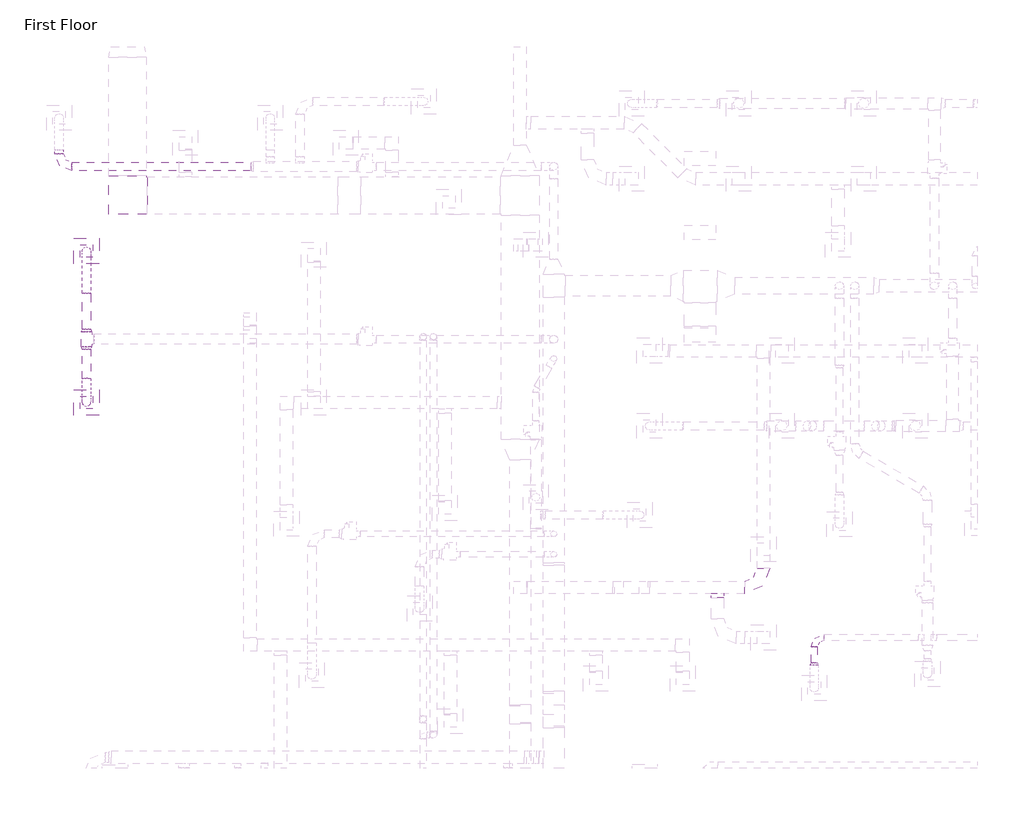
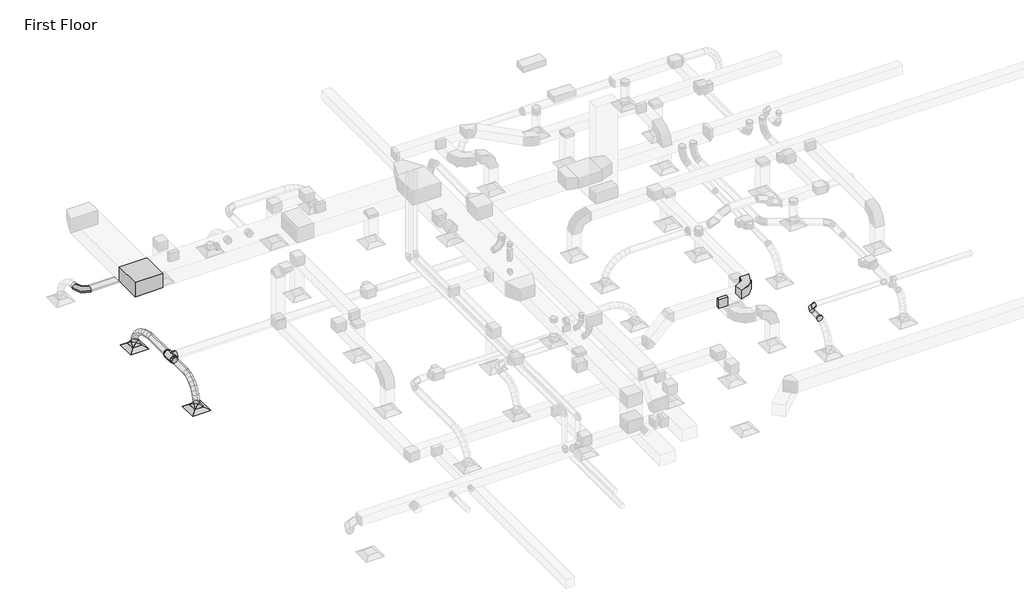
# One storey, part 9 of 61: 11 duct fittings, 7 duct segments, 2 air terminals.
"""IFC4 building model written with IfcOpenShell, lengths in millimetres."""

from ifc_helpers import new_model, si_unit, point, frame, frame_2d, origin, place, context, project, spatial, circle_curve, ellipse_curve, trimmed, segment, composite_curve, outline, extrude, transform, mapped, element, save
from ifc_brep_helpers import plane_surface, cylinder_surface, advanced_brep
from components import m_exhaust_grill_er_600_x_600_face_300_x_300_connection_ff221211, m_rectangular_elbow_mitered_standard_084eb264, m_rectangular_elbow_radius_1_5_w_86011e9f, m_rectangular_takeoff_standard_c00386d1, m_rectangular_to_round_transition_angle_45_degree_60daae35, m_round_elbow_1_5_d_2e586196, m_round_elbow_1_5_d_b7bc3624, m_round_tee_standard_11950e83, m_round_transition_angle_45_degree_3fc7b733, m_round_transition_angle_45_degree_7939cf24

model = new_model("IFC4")

# Units and contexts
model_context = context("Model", 3, world=origin())
ifc_project = project(units=[si_unit("LENGTHUNIT", "METRE", prefix="MILLI")], contexts=[model_context])

# Site, building, storey
site = spatial("IfcSite", under=ifc_project)
building = spatial("IfcBuilding", under=site)
storey = spatial("IfcBuildingStorey", under=building, Name="First Floor", Elevation=0.0)

# Air terminals
placement = place(None, origin())
m_exhaust_grill_er_600_x_600_face_300_x_300_connection_shape = m_exhaust_grill_er_600_x_600_face_300_x_300_connection_ff221211(model_context)
element("IfcAirTerminal", 1, ObjectType="M_Supply Diffuser : SD-600 x 600 Face 300 x 300 Connection", at=placement, inside=storey, context=model_context, shape_type="MappedRepresentation", body=[
    mapped(m_exhaust_grill_er_600_x_600_face_300_x_300_connection_shape, transform((-50186.4993979, 23910.5501837, 2680.0), x_axis=(1.0, 0.0, 0.0), y_axis=(0.0, 1.0, 0.0), z_axis=(0.0, 0.0, 1.0))),
])
element("IfcAirTerminal", 2, ObjectType="M_Supply Diffuser : SD-600 x 600 Face 300 x 300 Connection", at=placement, inside=storey, context=model_context, shape_type="MappedRepresentation", body=[
    mapped(m_exhaust_grill_er_600_x_600_face_300_x_300_connection_shape, transform((-50186.4993979, 20303.2476716, 2680.0), x_axis=(1.0, 0.0, 0.0), y_axis=(0.0, 1.0, 0.0), z_axis=(0.0, 0.0, 1.0))),
])

# Duct fittings
m_rectangular_elbow_mitered_standard_shape = m_rectangular_elbow_mitered_standard_084eb264(model_context)
element("IfcDuctFitting", 3, ObjectType="M_Rectangular Elbow - Mitered : Standard", at=placement, inside=storey, context=model_context, shape_type="MappedRepresentation", body=[
    mapped(m_rectangular_elbow_mitered_standard_shape, transform((-49210.6837723, 25228.8199771, 4000.010768), x_axis=(0.0, -1.0, 0.0), y_axis=(0.9999999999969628, 0.0, -2.4646645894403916e-06), z_axis=(2.4646645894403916e-06, 0.0, 0.9999999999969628))),
])
m_rectangular_elbow_radius_1_5_w_shape = m_rectangular_elbow_radius_1_5_w_86011e9f(model_context)
element("IfcDuctFitting", 4, ObjectType="M_Rectangular Elbow - Radius : 1.5 W", at=placement, inside=storey, context=model_context, shape_type="MappedRepresentation", body=[
    mapped(m_rectangular_elbow_radius_1_5_w_shape, transform((-34075.733002, 15905.4855953, 4000.0), x_axis=(1.0, 0.0, 0.0), y_axis=(0.0, 1.0, 0.0), z_axis=(0.0, 0.0, 1.0))),
])
m_rectangular_takeoff_standard_shape = m_rectangular_takeoff_standard_c00386d1(model_context)
element("IfcDuctFitting", 5, ObjectType="M_Rectangular Takeoff : Standard", at=placement, inside=storey, context=model_context, shape_type="MappedRepresentation", body=[
    mapped(m_rectangular_takeoff_standard_shape, transform((-35175.733002, 15755.4855953, 4000.0), x_axis=(0.0, -1.0, 0.0), y_axis=(-1.0, 0.0, 0.0), z_axis=(0.0, 0.0, -1.0))),
])
m_rectangular_to_round_transition_angle_45_degree_shape = m_rectangular_to_round_transition_angle_45_degree_60daae35(model_context)
element("IfcDuctFitting", 6, ObjectType="M_Rectangular to Round Transition - Angle : 45 Degree", at=placement, inside=storey, context=model_context, shape_type="MappedRepresentation", body=[
    mapped(m_rectangular_to_round_transition_angle_45_degree_shape, transform((-50186.4993979, 23910.5501837, 2781.6), x_axis=(0.0, 0.0, 1.0), y_axis=(1.0, 0.0, 0.0), z_axis=(0.0, 1.0, 0.0))),
])
element("IfcDuctFitting", 7, ObjectType="M_Rectangular to Round Transition - Angle : 45 Degree", at=placement, inside=storey, context=model_context, shape_type="MappedRepresentation", body=[
    mapped(m_rectangular_to_round_transition_angle_45_degree_shape, transform((-50186.4993979, 20303.2476716, 2781.6), x_axis=(0.0, 0.0, 1.0), y_axis=(1.0, 0.0, 0.0), z_axis=(0.0, 1.0, 0.0))),
])
m_round_elbow_1_5_d_shape = m_round_elbow_1_5_d_2e586196(model_context)
element("IfcDuctFitting", 8, ObjectType="M_Round Elbow : 1.5 D", at=placement, inside=storey, context=model_context, shape_type="MappedRepresentation", body=[
    mapped(m_round_elbow_1_5_d_shape, transform((-32868.9643314, 14711.7643739, 3619.1), x_axis=(-1.0, 0.0, 0.0), y_axis=(0.0, -1.0, 0.0), z_axis=(0.0, 0.0, 1.0))),
])
m_round_elbow_1_5_d_2_shape = m_round_elbow_1_5_d_b7bc3624(model_context)
element("IfcDuctFitting", 9, ObjectType="M_Round Elbow : 1.5 D", at=placement, inside=storey, context=model_context, shape_type="MappedRepresentation", body=[
    mapped(m_round_elbow_1_5_d_2_shape, transform((-50836.7847648, 25922.5121835, 3644.1), x_axis=(0.0, -1.0, 0.0), y_axis=(1.0, 0.0, 0.0), z_axis=(0.0, 0.0, 1.0))),
])
m_round_tee_standard_shape = m_round_tee_standard_11950e83(model_context)
element("IfcDuctFitting", 10, ObjectType="M_Round Tee : Standard", at=placement, inside=storey, context=model_context, shape_type="MappedRepresentation", body=[
    mapped(m_round_tee_standard_shape, transform((-50186.4993979, 21808.4183799, 3619.075), x_axis=(0.0, 1.0, 0.0), y_axis=(-1.0, 0.0, 0.0), z_axis=(0.0, 0.0, 1.0))),
])
m_round_transition_angle_45_degree_shape = m_round_transition_angle_45_degree_3fc7b733(model_context)
element("IfcDuctFitting", 11, ObjectType="M_Round Transition - Angle : 45 Degree", at=placement, inside=storey, context=model_context, shape_type="MappedRepresentation", body=[
    mapped(m_round_transition_angle_45_degree_shape, transform((-32868.9643314, 14111.7643739, 3619.1), x_axis=(0.0, -1.0, 0.0), y_axis=(1.0, 0.0, 0.0), z_axis=(0.0, 0.0, 1.0))),
])
m_round_transition_angle_45_degree_2_shape = m_round_transition_angle_45_degree_7939cf24(model_context)
element("IfcDuctFitting", 12, ObjectType="M_Round Transition - Angle : 45 Degree", at=placement, inside=storey, context=model_context, shape_type="MappedRepresentation", body=[
    mapped(m_round_transition_angle_45_degree_2_shape, transform((-50186.4993979, 21983.4183799, 3619.075), x_axis=(0.0, 1.0, 0.0), y_axis=(-1.0, 0.0, 0.0), z_axis=(0.0, 0.0, 1.0))),
])
element("IfcDuctFitting", 13, ObjectType="M_Round Transition - Angle : 45 Degree", at=placement, inside=storey, context=model_context, shape_type="MappedRepresentation", body=[
    mapped(m_round_transition_angle_45_degree_2_shape, transform((-50186.4993979, 21633.4183799, 3619.075), x_axis=(0.0, -1.0, 0.0), y_axis=(1.0, 0.0, 0.0), z_axis=(0.0, 0.0, 1.0))),
])

# Duct segments
element("IfcDuctSegment", 14, ObjectType="Flex - Round", at=placement, inside=storey, context=model_context, shape_type="AdvancedBrep", body=[
    advanced_brep(
    [(-50286.4993979, 22908.4183799, 3619.075), (-50186.4993979, 22900.6822687, 3519.3746861), (-50086.4993979, 22908.4183799, 3619.075), (-50186.4993979, 22916.1544911, 3718.7753139), (-50286.4993979, 23050.9511183, 3608.0153647), (-50186.4993979, 23036.5347607, 3508.8333955), (-50086.4993979, 23050.9511183, 3608.0153647), (-50186.4993979, 23065.3674759, 3707.1973338), (-50286.4993979, 23910.5501837, 2902.3106781), (-50186.4993979, 24009.3395231, 2917.824105), (-50086.4993979, 23910.5501837, 2902.3106781), (-50186.4993979, 23811.7608442, 2886.7972513), (-50286.4993979, 23200.516996, 3575.9418052), (-50186.4993979, 23173.7462245, 3479.4091705), (-50086.4993979, 23200.516996, 3575.9418052), (-50186.4993979, 23227.2877675, 3672.47444), (-50286.4993979, 23350.7605863, 3524.5123415), (-50186.4993979, 23312.8703193, 3431.7859902), (-50086.4993979, 23350.7605863, 3524.5123415), (-50186.4993979, 23388.6508534, 3617.2386927), (-50286.4993979, 23495.3264622, 3455.3849932), (-50186.4993979, 23446.5356082, 3367.870997), (-50086.4993979, 23495.3264622, 3455.3849932), (-50186.4993979, 23544.1173163, 3542.8989895), (-50286.4993979, 23627.8591968, 3370.2177803), (-50186.4993979, 23567.6440718, 3290.0451652), (-50086.4993979, 23627.8591968, 3370.2177803), (-50186.4993979, 23688.0743218, 3450.3903954), (-50286.4993979, 23742.0033632, 3270.6687225), (-50186.4993979, 23669.4313511, 3201.2729741), (-50086.4993979, 23742.0033632, 3270.6687225), (-50186.4993979, 23814.5753752, 3340.064471), (-50286.4993979, 23831.4035344, 3158.3958397), (-50186.4993979, 23745.9508652, 3105.1762181), (-50086.4993979, 23831.4035344, 3158.3958397), (-50186.4993979, 23916.8562036, 3211.6154613), (-50286.4993979, 23889.7042835, 3035.0571516), (-50186.4993979, 23793.1470039, 3005.3299911), (-50086.4993979, 23889.7042835, 3035.0571516), (-50186.4993979, 23986.2615631, 3064.7843121)],
    [
        (0, 1, circle_curve(frame((-50186.4993979, 22908.4183799, 3619.075), z_axis=(0.0, -0.9970031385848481, 0.07736111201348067), x_axis=(-1.0, 0.0, 0.0)), 100.0)),
        (1, 2, circle_curve(frame((-50186.4993979, 22908.4183799, 3619.075), z_axis=(0.0, -0.9970031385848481, 0.07736111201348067), x_axis=(-1.0, 0.0, 0.0)), 100.0)),
        (2, 3, circle_curve(frame((-50186.4993979, 22908.4183799, 3619.075), z_axis=(0.0, -0.9970031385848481, 0.07736111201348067), x_axis=(-1.0, 0.0, 0.0)), 100.0)),
        (3, 0, circle_curve(frame((-50186.4993979, 22908.4183799, 3619.075), z_axis=(0.0, -0.9970031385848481, 0.07736111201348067), x_axis=(-1.0, 0.0, 0.0)), 100.0)),
        (0, 4),
        (4, 5, ellipse_curve(frame((-50186.4993979, 23050.9511183, 3608.0153647), z_axis=(0.0, -0.9896008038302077, 0.14384105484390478), x_axis=(0.0, -0.1438410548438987, -0.9896008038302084)), 100.2242205, 100.0)),
        (5, 1),
        (5, 6, ellipse_curve(frame((-50186.4993979, 23050.9511183, 3608.0153647), z_axis=(0.0, -0.9896008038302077, 0.14384105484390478), x_axis=(0.0, -0.1438410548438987, -0.9896008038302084)), 100.2242205, 100.0)),
        (6, 2),
        (6, 7, ellipse_curve(frame((-50186.4993979, 23050.9511183, 3608.0153647), z_axis=(0.0, -0.9896008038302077, 0.14384105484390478), x_axis=(0.0, -0.1438410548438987, -0.9896008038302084)), 100.2242205, 100.0)),
        (7, 3),
        (7, 4, ellipse_curve(frame((-50186.4993979, 23050.9511183, 3608.0153647), z_axis=(0.0, -0.9896008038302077, 0.14384105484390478), x_axis=(0.0, -0.1438410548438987, -0.9896008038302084)), 100.2242205, 100.0)),
        (8, 9, circle_curve(frame((-50186.4993979, 23910.5501837, 2902.3106781), z_axis=(0.0, 0.1551342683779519, -0.9878933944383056), x_axis=(-1.0, 0.0, 0.0)), 100.0)),
        (9, 10, circle_curve(frame((-50186.4993979, 23910.5501837, 2902.3106781), z_axis=(0.0, 0.1551342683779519, -0.9878933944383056), x_axis=(-1.0, 0.0, 0.0)), 100.0)),
        (10, 11, circle_curve(frame((-50186.4993979, 23910.5501837, 2902.3106781), z_axis=(0.0, 0.1551342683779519, -0.9878933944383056), x_axis=(-1.0, 0.0, 0.0)), 100.0)),
        (11, 8, circle_curve(frame((-50186.4993979, 23910.5501837, 2902.3106781), z_axis=(0.0, 0.1551342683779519, -0.9878933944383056), x_axis=(-1.0, 0.0, 0.0)), 100.0)),
        (4, 12),
        (12, 13, ellipse_curve(frame((-50186.4993979, 23200.516996, 3575.9418052), z_axis=(0.0, -0.9636307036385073, 0.26723747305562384), x_axis=(0.0, -0.26723747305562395, -0.9636307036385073)), 100.1759641, 100.0)),
        (13, 5),
        (13, 14, ellipse_curve(frame((-50186.4993979, 23200.516996, 3575.9418052), z_axis=(0.0, -0.9636307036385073, 0.26723747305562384), x_axis=(0.0, -0.26723747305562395, -0.9636307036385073)), 100.1759641, 100.0)),
        (14, 6),
        (14, 15, ellipse_curve(frame((-50186.4993979, 23200.516996, 3575.9418052), z_axis=(0.0, -0.9636307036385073, 0.26723747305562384), x_axis=(0.0, -0.26723747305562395, -0.9636307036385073)), 100.1759641, 100.0)),
        (15, 7),
        (15, 12, ellipse_curve(frame((-50186.4993979, 23200.516996, 3575.9418052), z_axis=(0.0, -0.9636307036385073, 0.26723747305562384), x_axis=(0.0, -0.26723747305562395, -0.9636307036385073)), 100.1759641, 100.0)),
        (12, 16),
        (16, 17, ellipse_curve(frame((-50186.4993979, 23350.7605863, 3524.5123415), z_axis=(0.0, -0.9256981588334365, 0.3782630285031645), x_axis=(0.0, -0.37826302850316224, -0.9256981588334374)), 100.1690998, 100.0)),
        (17, 13),
        (17, 18, ellipse_curve(frame((-50186.4993979, 23350.7605863, 3524.5123415), z_axis=(0.0, -0.9256981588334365, 0.3782630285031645), x_axis=(0.0, -0.37826302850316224, -0.9256981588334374)), 100.1690998, 100.0)),
        (18, 14),
        (18, 19, ellipse_curve(frame((-50186.4993979, 23350.7605863, 3524.5123415), z_axis=(0.0, -0.9256981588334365, 0.3782630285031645), x_axis=(0.0, -0.37826302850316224, -0.9256981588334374)), 100.1690998, 100.0)),
        (19, 15),
        (19, 16, ellipse_curve(frame((-50186.4993979, 23350.7605863, 3524.5123415), z_axis=(0.0, -0.9256981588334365, 0.3782630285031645), x_axis=(0.0, -0.37826302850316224, -0.9256981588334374)), 100.1690998, 100.0)),
        (16, 20),
        (20, 21, ellipse_curve(frame((-50186.4993979, 23495.3264622, 3455.3849932), z_axis=(0.0, -0.8734276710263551, 0.4869539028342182), x_axis=(0.0, -0.48695390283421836, -0.8734276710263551)), 100.1960427, 100.0)),
        (21, 17),
        (21, 22, ellipse_curve(frame((-50186.4993979, 23495.3264622, 3455.3849932), z_axis=(0.0, -0.8734276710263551, 0.4869539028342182), x_axis=(0.0, -0.48695390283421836, -0.8734276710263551)), 100.1960427, 100.0)),
        (22, 18),
        (22, 23, ellipse_curve(frame((-50186.4993979, 23495.3264622, 3455.3849932), z_axis=(0.0, -0.8734276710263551, 0.4869539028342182), x_axis=(0.0, -0.48695390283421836, -0.8734276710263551)), 100.1960427, 100.0)),
        (23, 19),
        (23, 20, ellipse_curve(frame((-50186.4993979, 23495.3264622, 3455.3849932), z_axis=(0.0, -0.8734276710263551, 0.4869539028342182), x_axis=(0.0, -0.48695390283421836, -0.8734276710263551)), 100.1960427, 100.0)),
        (20, 24),
        (24, 25, ellipse_curve(frame((-50186.4993979, 23627.8591968, 3370.2177803), z_axis=(0.0, -0.7995897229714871, 0.600546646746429), x_axis=(0.0, -0.6005466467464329, -0.7995897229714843)), 100.2671905, 100.0)),
        (25, 21),
        (25, 26, ellipse_curve(frame((-50186.4993979, 23627.8591968, 3370.2177803), z_axis=(0.0, -0.7995897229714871, 0.600546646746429), x_axis=(0.0, -0.6005466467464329, -0.7995897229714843)), 100.2671905, 100.0)),
        (26, 22),
        (26, 27, ellipse_curve(frame((-50186.4993979, 23627.8591968, 3370.2177803), z_axis=(0.0, -0.7995897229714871, 0.600546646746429), x_axis=(0.0, -0.6005466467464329, -0.7995897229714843)), 100.2671905, 100.0)),
        (27, 23),
        (27, 24, ellipse_curve(frame((-50186.4993979, 23627.8591968, 3370.2177803), z_axis=(0.0, -0.7995897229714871, 0.600546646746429), x_axis=(0.0, -0.6005466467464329, -0.7995897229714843)), 100.2671905, 100.0)),
        (24, 28),
        (28, 29, ellipse_curve(frame((-50186.4993979, 23742.0033632, 3270.6687225), z_axis=(0.0, -0.6911136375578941, 0.722746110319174), x_axis=(0.0, -0.722746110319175, -0.6911136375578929)), 100.4114876, 100.0)),
        (29, 25),
        (29, 30, ellipse_curve(frame((-50186.4993979, 23742.0033632, 3270.6687225), z_axis=(0.0, -0.6911136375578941, 0.722746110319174), x_axis=(0.0, -0.722746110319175, -0.6911136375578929)), 100.4114876, 100.0)),
        (30, 26),
        (30, 31, ellipse_curve(frame((-50186.4993979, 23742.0033632, 3270.6687225), z_axis=(0.0, -0.6911136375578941, 0.722746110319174), x_axis=(0.0, -0.722746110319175, -0.6911136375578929)), 100.4114876, 100.0)),
        (31, 27),
        (31, 28, ellipse_curve(frame((-50186.4993979, 23742.0033632, 3270.6687225), z_axis=(0.0, -0.6911136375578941, 0.722746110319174), x_axis=(0.0, -0.722746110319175, -0.6911136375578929)), 100.4114876, 100.0)),
        (28, 32),
        (32, 33, ellipse_curve(frame((-50186.4993979, 23831.4035344, 3158.3958397), z_axis=(0.0, -0.5286532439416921, 0.8488378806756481), x_axis=(0.0, -0.8488378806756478, -0.5286532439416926)), 100.6701882, 100.0)),
        (33, 29),
        (33, 34, ellipse_curve(frame((-50186.4993979, 23831.4035344, 3158.3958397), z_axis=(0.0, -0.5286532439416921, 0.8488378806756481), x_axis=(0.0, -0.8488378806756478, -0.5286532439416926)), 100.6701882, 100.0)),
        (34, 30),
        (34, 35, ellipse_curve(frame((-50186.4993979, 23831.4035344, 3158.3958397), z_axis=(0.0, -0.5286532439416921, 0.8488378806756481), x_axis=(0.0, -0.8488378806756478, -0.5286532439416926)), 100.6701882, 100.0)),
        (35, 31),
        (35, 32, ellipse_curve(frame((-50186.4993979, 23831.4035344, 3158.3958397), z_axis=(0.0, -0.5286532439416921, 0.8488378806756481), x_axis=(0.0, -0.8488378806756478, -0.5286532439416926)), 100.6701882, 100.0)),
        (32, 36),
        (36, 37, ellipse_curve(frame((-50186.4993979, 23889.7042835, 3035.0571516), z_axis=(0.0, -0.2942416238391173, 0.9557310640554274), x_axis=(0.0, -0.9557310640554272, -0.2942416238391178)), 101.0297596, 100.0)),
        (37, 33),
        (37, 38, ellipse_curve(frame((-50186.4993979, 23889.7042835, 3035.0571516), z_axis=(0.0, -0.2942416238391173, 0.9557310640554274), x_axis=(0.0, -0.9557310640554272, -0.2942416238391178)), 101.0297596, 100.0)),
        (38, 34),
        (38, 39, ellipse_curve(frame((-50186.4993979, 23889.7042835, 3035.0571516), z_axis=(0.0, -0.2942416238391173, 0.9557310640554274), x_axis=(0.0, -0.9557310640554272, -0.2942416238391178)), 101.0297596, 100.0)),
        (39, 35),
        (39, 36, ellipse_curve(frame((-50186.4993979, 23889.7042835, 3035.0571516), z_axis=(0.0, -0.2942416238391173, 0.9557310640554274), x_axis=(0.0, -0.9557310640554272, -0.2942416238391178)), 101.0297596, 100.0)),
        (36, 8),
        (11, 37),
        (10, 38),
        (9, 39),
    ],
    [
        plane_surface(frame((-50186.4993979, 22916.1544911, 3718.7753139), z_axis=(0.0, -0.9970031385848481, 0.07736111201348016), x_axis=(1.0, 0.0, 0.0))),
        cylinder_surface(frame((-50186.4993979, 22908.4183799, 3619.075), z_axis=(0.0, -0.9970031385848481, 0.07736111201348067), x_axis=(-1.0, 0.0, 0.0)), 100.0),
        plane_surface(frame((-50186.4993979, 24009.3395231, 2917.824105), z_axis=(0.0, 0.15513426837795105, -0.9878933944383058), x_axis=(1.0, 0.0, 0.0))),
        cylinder_surface(frame((-50186.4993979, 23050.9511183, 3608.0153647), z_axis=(0.0, -0.9777706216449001, 0.20967739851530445), x_axis=(-1.0, 0.0, 0.0)), 100.0),
        cylinder_surface(frame((-50186.4993979, 23200.516996, 3575.9418052), z_axis=(0.0, -0.9461054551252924, 0.32385871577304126), x_axis=(-1.0, 0.0, 0.0)), 100.0),
        cylinder_surface(frame((-50186.4993979, 23350.7605863, 3524.5123415), z_axis=(0.0, -0.9021654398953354, 0.4313902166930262), x_axis=(-1.0, 0.0, 0.0)), 100.0),
        cylinder_surface(frame((-50186.4993979, 23495.3264622, 3455.3849932), z_axis=(0.0, -0.8412720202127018, 0.5406120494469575), x_axis=(-1.0, 0.0, 0.0)), 100.0),
        cylinder_surface(frame((-50186.4993979, 23627.8591968, 3370.2177803), z_axis=(0.0, -0.7536459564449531, 0.6572805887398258), x_axis=(-1.0, 0.0, 0.0)), 100.0),
        cylinder_surface(frame((-50186.4993979, 23742.0033632, 3270.6687225), z_axis=(0.0, -0.6229169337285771, 0.7822879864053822), x_axis=(-1.0, 0.0, 0.0)), 100.0),
        cylinder_surface(frame((-50186.4993979, 23831.4035344, 3158.3958397), z_axis=(0.0, -0.4273507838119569, 0.9040858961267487), x_axis=(-1.0, 0.0, 0.0)), 100.0),
        cylinder_surface(frame((-50186.4993979, 23889.7042835, 3035.0571516), z_axis=(0.0, -0.1551342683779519, 0.9878933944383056), x_axis=(-1.0, 0.0, 0.0)), 100.0),
    ],
    [
        (0, [[1, 2, 3, 4]]),
        (1, [[-1, 5, 6, 7]]),
        (1, [[-2, -7, 8, 9]]),
        (1, [[-3, -9, 10, 11]]),
        (1, [[-4, -11, 12, -5]]),
        (2, [[13, 14, 15, 16]]),
        (3, [[-6, 17, 18, 19]]),
        (3, [[-8, -19, 20, 21]]),
        (3, [[-10, -21, 22, 23]]),
        (3, [[-12, -23, 24, -17]]),
        (4, [[-18, 25, 26, 27]]),
        (4, [[-20, -27, 28, 29]]),
        (4, [[-22, -29, 30, 31]]),
        (4, [[-24, -31, 32, -25]]),
        (5, [[-26, 33, 34, 35]]),
        (5, [[-28, -35, 36, 37]]),
        (5, [[-30, -37, 38, 39]]),
        (5, [[-32, -39, 40, -33]]),
        (6, [[-34, 41, 42, 43]]),
        (6, [[-36, -43, 44, 45]]),
        (6, [[-38, -45, 46, 47]]),
        (6, [[-40, -47, 48, -41]]),
        (7, [[-42, 49, 50, 51]]),
        (7, [[-44, -51, 52, 53]]),
        (7, [[-46, -53, 54, 55]]),
        (7, [[-48, -55, 56, -49]]),
        (8, [[-50, 57, 58, 59]]),
        (8, [[-52, -59, 60, 61]]),
        (8, [[-54, -61, 62, 63]]),
        (8, [[-56, -63, 64, -57]]),
        (9, [[-58, 65, 66, 67]]),
        (9, [[-60, -67, 68, 69]]),
        (9, [[-62, -69, 70, 71]]),
        (9, [[-64, -71, 72, -65]]),
        (10, [[-66, 73, -16, 74]]),
        (10, [[-68, -74, -15, 75]]),
        (10, [[-70, -75, -14, 76]]),
        (10, [[-72, -76, -13, -73]]),
    ],
),
])
element("IfcDuctSegment", 15, ObjectType="Flex - Round", at=placement, inside=storey, context=model_context, shape_type="AdvancedBrep", body=[
    advanced_brep(
    [(-50086.4993979, 20873.4183799, 3619.075), (-50186.4993979, 20889.5023993, 3520.3769538), (-50286.4993979, 20873.4183799, 3619.075), (-50186.4993979, 20857.3343606, 3717.7730462), (-50086.4993979, 20761.26578, 3600.7984012), (-50186.4993979, 20791.5726395, 3504.4181358), (-50286.4993979, 20761.26578, 3600.7984012), (-50186.4993979, 20730.9589205, 3697.1786666), (-50086.4993979, 20303.2476716, 2902.3106781), (-50186.4993979, 20203.7550327, 2912.3712346), (-50286.4993979, 20303.2476716, 2902.3106781), (-50186.4993979, 20402.7403106, 2892.2501217), (-50086.4993979, 20655.5328482, 3550.0126942), (-50186.4993979, 20709.0689067, 3464.789892), (-50286.4993979, 20655.5328482, 3550.0126942), (-50186.4993979, 20601.9967897, 3635.2354964), (-50086.4993979, 20558.8499308, 3472.7840129), (-50186.4993979, 20628.3245687, 3400.2926787), (-50286.4993979, 20558.8499308, 3472.7840129), (-50186.4993979, 20489.3752929, 3545.2753471), (-50086.4993979, 20473.8473737, 3375.1784911), (-50186.4993979, 20554.2968679, 3315.2892081), (-50286.4993979, 20473.8473737, 3375.1784911), (-50186.4993979, 20393.3978796, 3435.0677742), (-50086.4993979, 20403.1555232, 3263.2622628), (-50186.4993979, 20491.5196264, 3215.9030406), (-50286.4993979, 20403.1555232, 3263.2622628), (-50186.4993979, 20314.79142, 3310.6214851), (-50086.4993979, 20349.4047253, 3143.101462), (-50186.4993979, 20443.7191636, 3109.0443128), (-50286.4993979, 20349.4047253, 3143.101462), (-50186.4993979, 20255.090287, 3177.1586112), (-50086.4993979, 20315.2253261, 3020.7622224), (-50186.4993979, 20413.8523427, 3002.1412004), (-50286.4993979, 20315.2253261, 3020.7622224), (-50186.4993979, 20216.5983094, 3039.3832445)],
    [
        (0, 1, circle_curve(frame((-50186.4993979, 20873.4183799, 3619.075), z_axis=(0.0, 0.9869804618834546, 0.16084019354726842), x_axis=(1.0, 0.0, 0.0)), 100.0)),
        (1, 2, circle_curve(frame((-50186.4993979, 20873.4183799, 3619.075), z_axis=(0.0, 0.9869804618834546, 0.16084019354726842), x_axis=(1.0, 0.0, 0.0)), 100.0)),
        (2, 3, circle_curve(frame((-50186.4993979, 20873.4183799, 3619.075), z_axis=(0.0, 0.9869804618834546, 0.16084019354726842), x_axis=(1.0, 0.0, 0.0)), 100.0)),
        (3, 0, circle_curve(frame((-50186.4993979, 20873.4183799, 3619.075), z_axis=(0.0, 0.9869804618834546, 0.16084019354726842), x_axis=(1.0, 0.0, 0.0)), 100.0)),
        (0, 4),
        (4, 5, ellipse_curve(frame((-50186.4993979, 20761.26578, 3600.7984012), z_axis=(0.0, 0.9539486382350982, 0.29996999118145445), x_axis=(0.0, 0.2999699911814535, -0.9539486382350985)), 101.0329713, 100.0)),
        (5, 1),
        (5, 6, ellipse_curve(frame((-50186.4993979, 20761.26578, 3600.7984012), z_axis=(0.0, 0.9539486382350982, 0.29996999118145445), x_axis=(0.0, 0.2999699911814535, -0.9539486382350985)), 101.0329713, 100.0)),
        (6, 2),
        (6, 7, ellipse_curve(frame((-50186.4993979, 20761.26578, 3600.7984012), z_axis=(0.0, 0.9539486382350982, 0.29996999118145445), x_axis=(0.0, 0.2999699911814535, -0.9539486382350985)), 101.0329713, 100.0)),
        (7, 3),
        (7, 4, ellipse_curve(frame((-50186.4993979, 20761.26578, 3600.7984012), z_axis=(0.0, 0.9539486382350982, 0.29996999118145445), x_axis=(0.0, 0.2999699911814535, -0.9539486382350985)), 101.0329713, 100.0)),
        (8, 9, circle_curve(frame((-50186.4993979, 20303.2476716, 2902.3106781), z_axis=(0.0, -0.10060556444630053, -0.9949263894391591), x_axis=(1.0, 0.0, 0.0)), 100.0)),
        (9, 10, circle_curve(frame((-50186.4993979, 20303.2476716, 2902.3106781), z_axis=(0.0, -0.10060556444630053, -0.9949263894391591), x_axis=(1.0, 0.0, 0.0)), 100.0)),
        (10, 11, circle_curve(frame((-50186.4993979, 20303.2476716, 2902.3106781), z_axis=(0.0, -0.10060556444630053, -0.9949263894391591), x_axis=(1.0, 0.0, 0.0)), 100.0)),
        (11, 8, circle_curve(frame((-50186.4993979, 20303.2476716, 2902.3106781), z_axis=(0.0, -0.10060556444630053, -0.9949263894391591), x_axis=(1.0, 0.0, 0.0)), 100.0)),
        (4, 12),
        (12, 13, ellipse_curve(frame((-50186.4993979, 20655.5328482, 3550.0126942), z_axis=(0.0, 0.8467822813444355, 0.5319396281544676), x_axis=(0.0, 0.5319396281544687, -0.8467822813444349)), 100.6431099, 100.0)),
        (13, 5),
        (13, 14, ellipse_curve(frame((-50186.4993979, 20655.5328482, 3550.0126942), z_axis=(0.0, 0.8467822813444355, 0.5319396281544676), x_axis=(0.0, 0.5319396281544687, -0.8467822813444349)), 100.6431099, 100.0)),
        (14, 6),
        (14, 15, ellipse_curve(frame((-50186.4993979, 20655.5328482, 3550.0126942), z_axis=(0.0, 0.8467822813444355, 0.5319396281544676), x_axis=(0.0, 0.5319396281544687, -0.8467822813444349)), 100.6431099, 100.0)),
        (15, 7),
        (15, 12, ellipse_curve(frame((-50186.4993979, 20655.5328482, 3550.0126942), z_axis=(0.0, 0.8467822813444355, 0.5319396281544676), x_axis=(0.0, 0.5319396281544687, -0.8467822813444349)), 100.6431099, 100.0)),
        (12, 16),
        (16, 17, ellipse_curve(frame((-50186.4993979, 20558.8499308, 3472.7840129), z_axis=(0.0, 0.7219694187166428, 0.6919249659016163), x_axis=(0.0, 0.6919249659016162, -0.7219694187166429)), 100.4077629, 100.0)),
        (17, 13),
        (17, 18, ellipse_curve(frame((-50186.4993979, 20558.8499308, 3472.7840129), z_axis=(0.0, 0.7219694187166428, 0.6919249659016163), x_axis=(0.0, 0.6919249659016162, -0.7219694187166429)), 100.4077629, 100.0)),
        (18, 14),
        (18, 19, ellipse_curve(frame((-50186.4993979, 20558.8499308, 3472.7840129), z_axis=(0.0, 0.7219694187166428, 0.6919249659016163), x_axis=(0.0, 0.6919249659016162, -0.7219694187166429)), 100.4077629, 100.0)),
        (19, 15),
        (19, 16, ellipse_curve(frame((-50186.4993979, 20558.8499308, 3472.7840129), z_axis=(0.0, 0.7219694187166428, 0.6919249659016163), x_axis=(0.0, 0.6919249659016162, -0.7219694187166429)), 100.4077629, 100.0)),
        (16, 20),
        (20, 21, ellipse_curve(frame((-50186.4993979, 20473.8473737, 3375.1784911), z_axis=(0.0, 0.5971384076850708, 0.8021382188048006), x_axis=(0.0, 0.8021382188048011, -0.5971384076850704)), 100.2938051, 100.0)),
        (21, 17),
        (21, 22, ellipse_curve(frame((-50186.4993979, 20473.8473737, 3375.1784911), z_axis=(0.0, 0.5971384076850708, 0.8021382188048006), x_axis=(0.0, 0.8021382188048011, -0.5971384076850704)), 100.2938051, 100.0)),
        (22, 18),
        (22, 23, ellipse_curve(frame((-50186.4993979, 20473.8473737, 3375.1784911), z_axis=(0.0, 0.5971384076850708, 0.8021382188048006), x_axis=(0.0, 0.8021382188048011, -0.5971384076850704)), 100.2938051, 100.0)),
        (23, 19),
        (23, 20, ellipse_curve(frame((-50186.4993979, 20473.8473737, 3375.1784911), z_axis=(0.0, 0.5971384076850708, 0.8021382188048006), x_axis=(0.0, 0.8021382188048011, -0.5971384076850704)), 100.2938051, 100.0)),
        (20, 24),
        (24, 25, ellipse_curve(frame((-50186.4993979, 20403.1555232, 3263.2622628), z_axis=(0.0, 0.4723865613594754, 0.8813914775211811), x_axis=(0.0, 0.8813914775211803, -0.47238656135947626)), 100.2552276, 100.0)),
        (25, 21),
        (25, 26, ellipse_curve(frame((-50186.4993979, 20403.1555232, 3263.2622628), z_axis=(0.0, 0.4723865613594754, 0.8813914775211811), x_axis=(0.0, 0.8813914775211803, -0.47238656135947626)), 100.2552276, 100.0)),
        (26, 22),
        (26, 27, ellipse_curve(frame((-50186.4993979, 20403.1555232, 3263.2622628), z_axis=(0.0, 0.4723865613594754, 0.8813914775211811), x_axis=(0.0, 0.8813914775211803, -0.47238656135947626)), 100.2552276, 100.0)),
        (27, 23),
        (27, 24, ellipse_curve(frame((-50186.4993979, 20403.1555232, 3263.2622628), z_axis=(0.0, 0.4723865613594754, 0.8813914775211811), x_axis=(0.0, 0.8813914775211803, -0.47238656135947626)), 100.2552276, 100.0)),
        (24, 28),
        (28, 29, ellipse_curve(frame((-50186.4993979, 20349.4047253, 3143.101462), z_axis=(0.0, 0.339637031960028, 0.9405565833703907), x_axis=(0.0, 0.9405565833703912, -0.3396370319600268)), 100.2751349, 100.0)),
        (29, 25),
        (29, 30, ellipse_curve(frame((-50186.4993979, 20349.4047253, 3143.101462), z_axis=(0.0, 0.339637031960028, 0.9405565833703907), x_axis=(0.0, 0.9405565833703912, -0.3396370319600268)), 100.2751349, 100.0)),
        (30, 26),
        (30, 31, ellipse_curve(frame((-50186.4993979, 20349.4047253, 3143.101462), z_axis=(0.0, 0.339637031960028, 0.9405565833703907), x_axis=(0.0, 0.9405565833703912, -0.3396370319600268)), 100.2751349, 100.0)),
        (31, 27),
        (31, 28, ellipse_curve(frame((-50186.4993979, 20349.4047253, 3143.101462), z_axis=(0.0, 0.339637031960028, 0.9405565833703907), x_axis=(0.0, 0.9405565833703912, -0.3396370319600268)), 100.2751349, 100.0)),
        (28, 32),
        (32, 33, ellipse_curve(frame((-50186.4993979, 20315.2253261, 3020.7622224), z_axis=(0.0, 0.18552475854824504, 0.9826395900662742), x_axis=(0.0, 0.9826395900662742, -0.18552475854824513)), 100.3694718, 100.0)),
        (33, 29),
        (33, 34, ellipse_curve(frame((-50186.4993979, 20315.2253261, 3020.7622224), z_axis=(0.0, 0.18552475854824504, 0.9826395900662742), x_axis=(0.0, 0.9826395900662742, -0.18552475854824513)), 100.3694718, 100.0)),
        (34, 30),
        (34, 35, ellipse_curve(frame((-50186.4993979, 20315.2253261, 3020.7622224), z_axis=(0.0, 0.18552475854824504, 0.9826395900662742), x_axis=(0.0, 0.9826395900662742, -0.18552475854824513)), 100.3694718, 100.0)),
        (35, 31),
        (35, 32, ellipse_curve(frame((-50186.4993979, 20315.2253261, 3020.7622224), z_axis=(0.0, 0.18552475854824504, 0.9826395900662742), x_axis=(0.0, 0.9826395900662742, -0.18552475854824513)), 100.3694718, 100.0)),
        (32, 8),
        (11, 33),
        (10, 34),
        (9, 35),
    ],
    [
        plane_surface(frame((-50186.4993979, 20889.5023993, 3520.3769538), z_axis=(0.0, 0.9869804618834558, 0.16084019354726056), x_axis=(1.0, 0.0, 0.0))),
        cylinder_surface(frame((-50186.4993979, 20873.4183799, 3619.075), z_axis=(0.0, 0.9869804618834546, 0.16084019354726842), x_axis=(1.0, 0.0, 0.0)), 100.0),
        plane_surface(frame((-50186.4993979, 20402.7403106, 2892.2501217), z_axis=(0.0, -0.10060556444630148, -0.994926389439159), x_axis=(1.0, 0.0, 0.0))),
        cylinder_surface(frame((-50186.4993979, 20761.26578, 3600.7984012), z_axis=(0.0, 0.9014102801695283, 0.4329659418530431), x_axis=(1.0, 0.0, 0.0)), 100.0),
        cylinder_surface(frame((-50186.4993979, 20655.5328482, 3550.0126942), z_axis=(0.0, 0.7813323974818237, 0.6241151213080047), x_axis=(1.0, 0.0, 0.0)), 100.0),
        cylinder_surface(frame((-50186.4993979, 20558.8499308, 3472.7840129), z_axis=(0.0, 0.6567425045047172, 0.7541149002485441), x_axis=(1.0, 0.0, 0.0)), 100.0),
        cylinder_surface(frame((-50186.4993979, 20473.8473737, 3375.1784911), z_axis=(0.0, 0.5340357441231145, 0.8454618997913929), x_axis=(1.0, 0.0, 0.0)), 100.0),
        cylinder_surface(frame((-50186.4993979, 20403.1555232, 3263.2622628), z_axis=(0.0, 0.4083321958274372, 0.9128334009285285), x_axis=(1.0, 0.0, 0.0)), 100.0),
        cylinder_surface(frame((-50186.4993979, 20349.4047253, 3143.101462), z_axis=(0.0, 0.26907807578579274, 0.9631183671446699), x_axis=(1.0, 0.0, 0.0)), 100.0),
        cylinder_surface(frame((-50186.4993979, 20315.2253261, 3020.7622224), z_axis=(0.0, 0.10060556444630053, 0.9949263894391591), x_axis=(1.0, 0.0, 0.0)), 100.0),
    ],
    [
        (0, [[1, 2, 3, 4]]),
        (1, [[-1, 5, 6, 7]]),
        (1, [[-2, -7, 8, 9]]),
        (1, [[-3, -9, 10, 11]]),
        (1, [[-4, -11, 12, -5]]),
        (2, [[13, 14, 15, 16]]),
        (3, [[-6, 17, 18, 19]]),
        (3, [[-8, -19, 20, 21]]),
        (3, [[-10, -21, 22, 23]]),
        (3, [[-12, -23, 24, -17]]),
        (4, [[-18, 25, 26, 27]]),
        (4, [[-20, -27, 28, 29]]),
        (4, [[-22, -29, 30, 31]]),
        (4, [[-24, -31, 32, -25]]),
        (5, [[-26, 33, 34, 35]]),
        (5, [[-28, -35, 36, 37]]),
        (5, [[-30, -37, 38, 39]]),
        (5, [[-32, -39, 40, -33]]),
        (6, [[-34, 41, 42, 43]]),
        (6, [[-36, -43, 44, 45]]),
        (6, [[-38, -45, 46, 47]]),
        (6, [[-40, -47, 48, -41]]),
        (7, [[-42, 49, 50, 51]]),
        (7, [[-44, -51, 52, 53]]),
        (7, [[-46, -53, 54, 55]]),
        (7, [[-48, -55, 56, -49]]),
        (8, [[-50, 57, 58, 59]]),
        (8, [[-52, -59, 60, 61]]),
        (8, [[-54, -61, 62, 63]]),
        (8, [[-56, -63, 64, -57]]),
        (9, [[-58, 65, -16, 66]]),
        (9, [[-60, -66, -15, 67]]),
        (9, [[-62, -67, -14, 68]]),
        (9, [[-64, -68, -13, -65]]),
    ],
),
])
element("IfcDuctSegment", 16, ObjectType="Taps", at=placement, inside=storey, context=model_context, shape_type="SweptSolid", body=[
    extrude(outline(composite_curve([segment(trimmed(circle_curve(frame_2d((3619.1, -32868.9643314)), 75.0), [point((3619.1, -32943.9643314))], [point((3544.1, -32868.9643314))], False, "CARTESIAN"), True, "CONTINUOUS"), segment(trimmed(circle_curve(frame_2d((3619.1, -32868.9643314)), 75.0), [point((3544.1, -32868.9643314))], [point((3619.1, -32793.9643314))], False, "CARTESIAN"), True, "CONTINUOUS"), segment(trimmed(circle_curve(frame_2d((3619.1, -32868.9643314)), 75.0), [point((3619.1, -32793.9643314))], [point((3694.1, -32868.9643314))], False, "CARTESIAN"), True, "CONTINUOUS"), segment(trimmed(circle_curve(frame_2d((3619.1, -32868.9643314)), 75.0), [point((3694.1, -32868.9643314))], [point((3619.1, -32943.9643314))], False, "CARTESIAN"), True, "CONTINUOUS")], self_intersect=False)), frame((0.0, 14111.7643739, 0.0), z_axis=(0.0, 1.0, 0.0), x_axis=(0.0, 0.0, 1.0)), (0.0, 0.0, 1.0), 375.0),
])
element("IfcDuctSegment", 17, ObjectType="Taps", at=placement, inside=storey, context=model_context, shape_type="SweptSolid", body=[
    extrude(outline(composite_curve([segment(trimmed(circle_curve(frame_2d((3619.075, -50186.4993979)), 100.0), [point((3619.075, -50086.4993979))], [point((3719.075, -50186.4993979))], False, "CARTESIAN"), True, "CONTINUOUS"), segment(trimmed(circle_curve(frame_2d((3619.075, -50186.4993979)), 100.0), [point((3719.075, -50186.4993979))], [point((3619.075, -50286.4993979))], False, "CARTESIAN"), True, "CONTINUOUS"), segment(trimmed(circle_curve(frame_2d((3619.075, -50186.4993979)), 100.0), [point((3619.075, -50286.4993979))], [point((3519.075, -50186.4993979))], False, "CARTESIAN"), True, "CONTINUOUS"), segment(trimmed(circle_curve(frame_2d((3619.075, -50186.4993979)), 100.0), [point((3519.075, -50186.4993979))], [point((3619.075, -50086.4993979))], False, "CARTESIAN"), True, "CONTINUOUS")], self_intersect=False)), frame((0.0, 22043.773719, 0.0), z_axis=(0.0, 1.0, 0.0), x_axis=(0.0, 0.0, 1.0)), (0.0, 0.0, 1.0), 864.6446609),
])
element("IfcDuctSegment", 18, ObjectType="Taps", at=placement, inside=storey, context=model_context, shape_type="SweptSolid", body=[
    extrude(outline(composite_curve([segment(trimmed(circle_curve(frame_2d((3619.075, -50186.4993979)), 100.0), [point((3619.075, -50286.4993979))], [point((3519.075, -50186.4993979))], False, "CARTESIAN"), True, "CONTINUOUS"), segment(trimmed(circle_curve(frame_2d((3619.075, -50186.4993979)), 100.0), [point((3519.075, -50186.4993979))], [point((3619.075, -50086.4993979))], False, "CARTESIAN"), True, "CONTINUOUS"), segment(trimmed(circle_curve(frame_2d((3619.075, -50186.4993979)), 100.0), [point((3619.075, -50086.4993979))], [point((3719.075, -50186.4993979))], False, "CARTESIAN"), True, "CONTINUOUS"), segment(trimmed(circle_curve(frame_2d((3619.075, -50186.4993979)), 100.0), [point((3719.075, -50186.4993979))], [point((3619.075, -50286.4993979))], False, "CARTESIAN"), True, "CONTINUOUS")], self_intersect=False)), frame((0.0, 20873.4183799, 0.0), z_axis=(0.0, 1.0, 0.0), x_axis=(0.0, 0.0, 1.0)), (0.0, 0.0, 1.0), 699.6446609),
])
element("IfcDuctSegment", 19, ObjectType="Taps", at=placement, inside=storey, context=model_context, shape_type="SweptSolid", body=[
    extrude(outline(composite_curve([segment(trimmed(circle_curve(frame_2d((25922.5121835, 3644.1)), 100.0), [point((26022.5121835, 3644.1))], [point((25922.5121835, 3544.1))], False, "CARTESIAN"), True, "CONTINUOUS"), segment(trimmed(circle_curve(frame_2d((25922.5121835, 3644.1)), 100.0), [point((25922.5121835, 3544.1))], [point((25822.5121835, 3644.1))], False, "CARTESIAN"), True, "CONTINUOUS"), segment(trimmed(circle_curve(frame_2d((25922.5121835, 3644.1)), 100.0), [point((25822.5121835, 3644.1))], [point((25922.5121835, 3744.1))], False, "CARTESIAN"), True, "CONTINUOUS"), segment(trimmed(circle_curve(frame_2d((25922.5121835, 3644.1)), 100.0), [point((25922.5121835, 3744.1))], [point((26022.5121835, 3644.1))], False, "CARTESIAN"), True, "CONTINUOUS")], self_intersect=False)), frame((-50536.7847648, 0.0, 0.0), z_axis=(1.0, 0.0, 0.0), x_axis=(0.0, 1.0, 0.0)), (0.0, 0.0, 1.0), 4254.6910191),
])
element("IfcDuctSegment", 20, ObjectType="Taps", at=placement, inside=storey, context=model_context, shape_type="SweptSolid", body=[
    extrude(outline(composite_curve([segment(trimmed(circle_curve(frame_2d((3644.1, -50836.7847648)), 100.0), [point((3644.1, -50736.7847648))], [point((3744.1, -50836.7847648))], False, "CARTESIAN"), True, "CONTINUOUS"), segment(trimmed(circle_curve(frame_2d((3644.1, -50836.7847648)), 100.0), [point((3744.1, -50836.7847648))], [point((3644.1, -50936.7847648))], False, "CARTESIAN"), True, "CONTINUOUS"), segment(trimmed(circle_curve(frame_2d((3644.1, -50836.7847648)), 100.0), [point((3644.1, -50936.7847648))], [point((3544.1, -50836.7847648))], False, "CARTESIAN"), True, "CONTINUOUS"), segment(trimmed(circle_curve(frame_2d((3644.1, -50836.7847648)), 100.0), [point((3544.1, -50836.7847648))], [point((3644.1, -50736.7847648))], False, "CARTESIAN"), True, "CONTINUOUS")], self_intersect=False)), frame((0.0, 26222.5121835, 0.0), z_axis=(0.0, 1.0, 0.0), x_axis=(0.0, 0.0, 1.0)), (0.0, 0.0, 1.0), 97.0591997),
])

save(model, "model.ifc")
